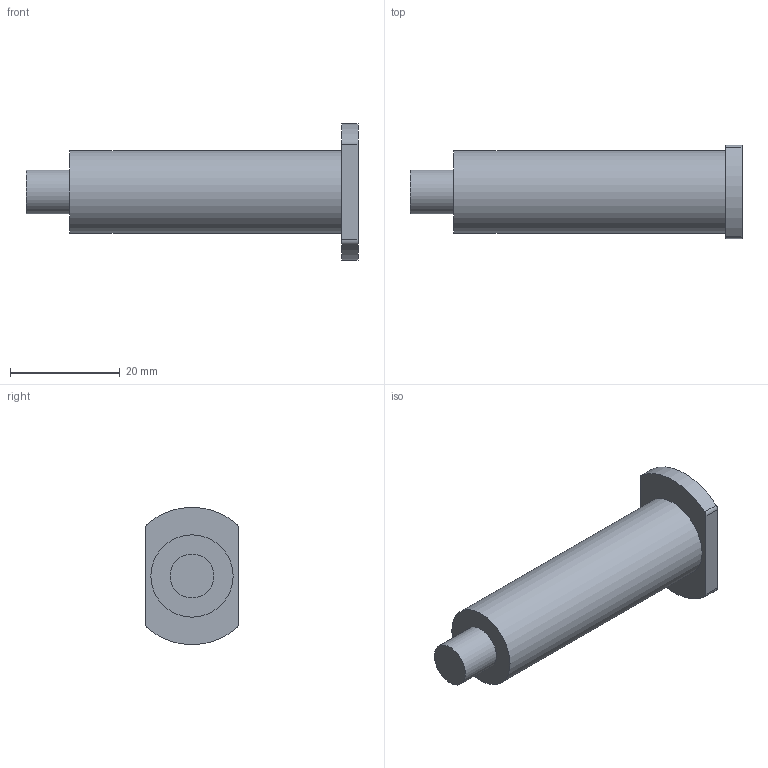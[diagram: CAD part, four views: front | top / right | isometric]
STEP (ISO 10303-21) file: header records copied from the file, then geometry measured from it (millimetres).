
FILE_DESCRIPTION(/* description */ ('STEP AP242 Edition 2','CAx-IF Rec.Pracs.---Representation and Presentation of Product Manufacturing Information (PMI)---4.0---2014-10-13','CAx-IF Rec.Pracs.---3D Tessellated Geometry---0.4---2014-09-14','2;1','CAx-IF Rec.Pracs.---User Defined Attributes---1.5---2016-08-15'),/* implementation_level */ '2;1');
FILE_NAME(/* name */ 'Assy_ForMFG - KD-D-504X_AnkleShoulderBolt (1)',/* time_stamp */ '2026-05-15T19:56:38Z',/* author */ (''),/* organization */ (''),/* preprocessor_version */ 'ST-DEVELOPER v20',/* originating_system */ 'ONSHAPE BY PTC INC, 1.215',/* authorisation */ ' ');
FILE_SCHEMA (('AP242_MANAGED_MODEL_BASED_3D_ENGINEERING_MIM_LF { 1 0 10303 442 3 1 4 }'));
Length unit declared in the file: metre
Products named in the file (1): KD-D-504X_AnkleShoulderBolt
Bounding box: 60.5 x 17 x 24.92 mm (x, y, z)
Volume: 10317.6 mm3; surface area: 3533.9 mm2
Topology: 1 solids, 1 shells, 14 faces, 31 edges, 21 vertices
Faces by surface type: cylinder 8, plane 6
Full cylindrical faces by diameter (mm): 8 x1, 15 x1
Entity records: 402 total; most frequent: DIRECTION 74, CARTESIAN_POINT 63, ORIENTED_EDGE 56, AXIS2_PLACEMENT_3D 31, EDGE_CURVE 28, VERTEX_POINT 20, EDGE_LOOP 18, FACE_BOUND 18
